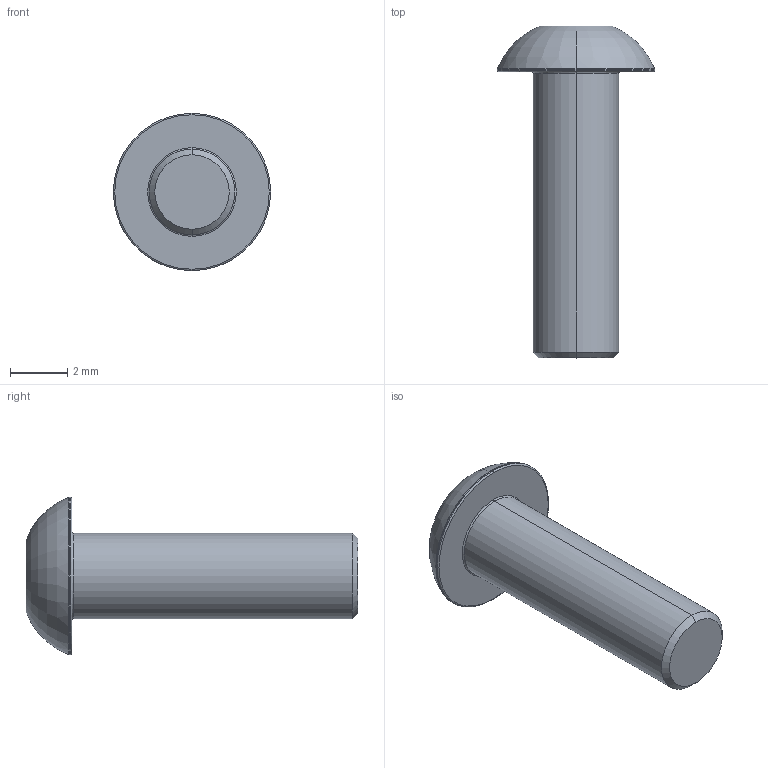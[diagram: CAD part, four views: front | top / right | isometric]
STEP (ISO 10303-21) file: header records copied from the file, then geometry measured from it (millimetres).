
FILE_DESCRIPTION (( 'STEP AP203' ), '1' );
FILE_NAME ('LGDD-TD-M3x10.STEP', '2026-08-13T14:33:02', ( '' ), ( '' ), 'SwSTEP 2.0', 'SolidWorks 2020', '' );
FILE_SCHEMA (( 'CONFIG_CONTROL_DESIGN' ));
Length unit declared in the file: millimetre
Products named in the file (1): LGDD-TD-M3x10
Bounding box: 5.5 x 11.6 x 5.5 mm (x, y, z)
Volume: 92.1 mm3; surface area: 161.3 mm2
Topology: 1 solids, 1 shells, 31 faces, 59 edges, 32 vertices
Faces by surface type: plane 10, cone 9, torus 8, cylinder 4
Entity records: 876 total; most frequent: CARTESIAN_POINT 166, DIRECTION 149, ORIENTED_EDGE 118, AXIS2_PLACEMENT_3D 65, EDGE_CURVE 59, EDGE_LOOP 33, CIRCLE 33, VERTEX_POINT 32
